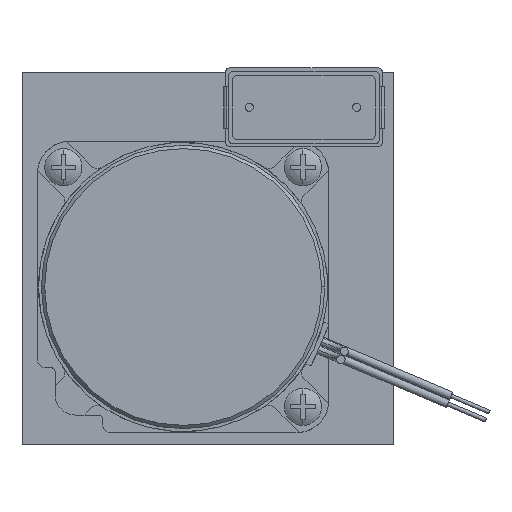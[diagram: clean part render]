
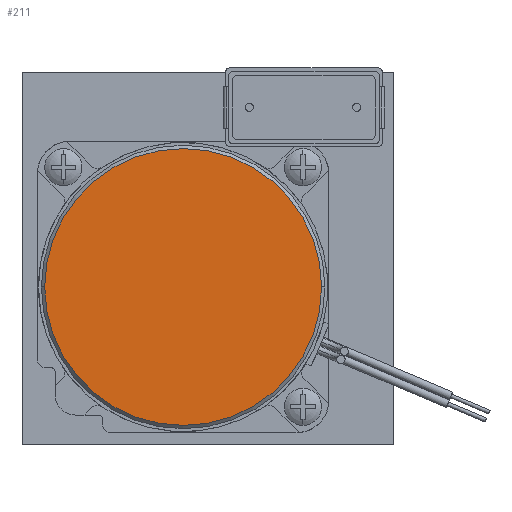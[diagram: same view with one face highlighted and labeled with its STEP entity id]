
A CAD part, left-side view. The second image highlights one B-rep face of the part: STEP entity #211.
In plain terms, the highlighted planar face has unit normal (-1, 0, 0).
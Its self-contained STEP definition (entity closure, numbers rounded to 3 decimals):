
#211 = ADVANCED_FACE( '', ( #1547 ), #1548, .T. );
#1547 = FACE_OUTER_BOUND( '', #3961, .T. );
#1548 = PLANE( '', #3962 );
#3961 = EDGE_LOOP( '', ( #7573, #7574 ) );
#3962 = AXIS2_PLACEMENT_3D( '', #7575, #7576, #7577 );
#7573 = ORIENTED_EDGE( '', *, *, #17313, .T. );
#7574 = ORIENTED_EDGE( '', *, *, #17515, .T. );
#7575 = CARTESIAN_POINT( '', ( -68., 67.75, -52. ) );
#7576 = DIRECTION( '', ( -1., 0., 0. ) );
#7577 = DIRECTION( '', ( 0., 1., 0. ) );
#17313 = EDGE_CURVE( '', #21569, #21573, #21575, .T. );
#17515 = EDGE_CURVE( '', #21573, #21569, #21910, .T. );
#21569 = VERTEX_POINT( '', #28104 );
#21573 = VERTEX_POINT( '', #28109 );
#21575 = CIRCLE( '', #28112, 33.5 );
#21910 = CIRCLE( '', #28640, 33.5 );
#28104 = CARTESIAN_POINT( '', ( -68., 84.5, -52. ) );
#28109 = CARTESIAN_POINT( '', ( -68., 17.5, -52. ) );
#28112 = AXIS2_PLACEMENT_3D( '', #36225, #36226, #36227 );
#28640 = AXIS2_PLACEMENT_3D( '', #36571, #36572, #36573 );
#36225 = CARTESIAN_POINT( '', ( -68., 51., -52. ) );
#36226 = DIRECTION( '', ( -1., 0., 0. ) );
#36227 = DIRECTION( '', ( 0., 1., 0. ) );
#36571 = CARTESIAN_POINT( '', ( -68., 51., -52. ) );
#36572 = DIRECTION( '', ( -1., 0., 0. ) );
#36573 = DIRECTION( '', ( 0., 1., 0. ) );
